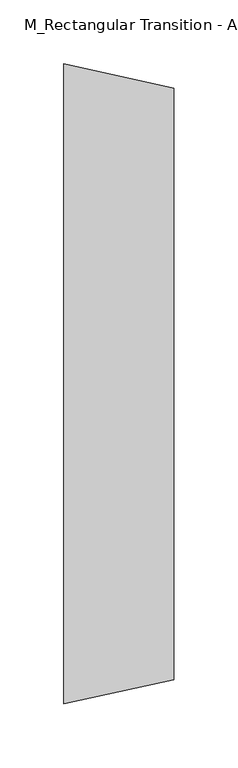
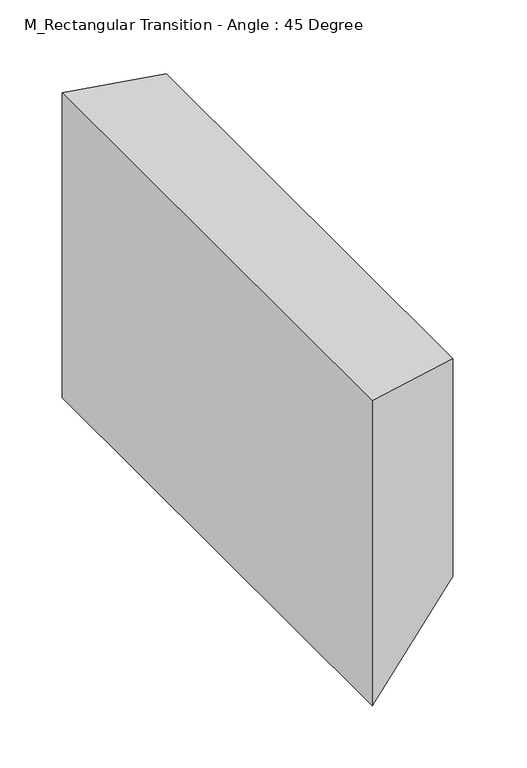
"""IFC4 building model written with IfcOpenShell, lengths in millimetres: duct fitting geometry, M_Rectangular Transition - Angle : 45 Degree."""

from ifc_helpers import new_model, si_unit, origin, place, context, project, spatial, faceted_brep, source, transform, mapped, element, save


def m_rectangular_transition_angle_45_degree_c3bd3b2c(model_context):
    return source(origin(), model_context, "Body", "Brep", [
        faceted_brep([(85.724442, -230.9375, 150.000558), (85.724442, -230.9375, -64.274442), (85.724442, 230.9375, -64.274442), (85.724442, 230.9375, 150.000558), (0.0, -250.0, 150.0), (0.0, 250.0, 150.0), (0.0, 250.0, -150.0), (0.0, -250.0, -150.0)], [[[0, 1, 2, 3]], [[4, 5, 6, 7]], [[4, 7, 1, 0]], [[7, 6, 2, 1]], [[6, 5, 3, 2]], [[5, 4, 0, 3]]]),
    ])


if __name__ == "__main__":
    model = new_model("IFC4")
    model_context = context("Model", 3, world=origin())
    ifc_project = project(units=[si_unit("LENGTHUNIT", "METRE", prefix="MILLI")], contexts=[model_context])
    site = spatial("IfcSite", under=ifc_project)
    building = spatial("IfcBuilding", under=site)
    placement = place(None, origin())
    m_rectangular_transition_angle_45_degree_shape = m_rectangular_transition_angle_45_degree_c3bd3b2c(model_context)
    element("IfcDuctFitting", 1, ObjectType="M_Rectangular Transition - Angle : 45 Degree", at=placement, inside=building, context=model_context, shape_type="MappedRepresentation", body=[
        mapped(m_rectangular_transition_angle_45_degree_shape, transform((0.0, 0.0, 0.0), x_axis=(1.0, 0.0, 0.0), y_axis=(0.0, 1.0, 0.0), z_axis=(0.0, 0.0, 1.0))),
    ])
    save(model, "model.ifc")
